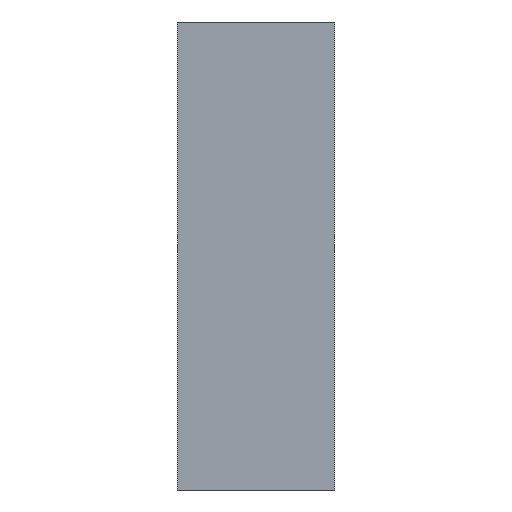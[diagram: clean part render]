
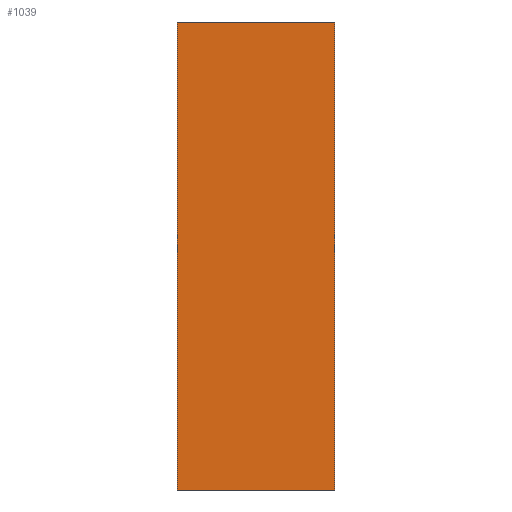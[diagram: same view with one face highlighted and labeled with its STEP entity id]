
A CAD part, left-side view. The second image highlights one B-rep face of the part: STEP entity #1039.
In plain terms, the highlighted planar face has unit normal (-1, 0, 0).
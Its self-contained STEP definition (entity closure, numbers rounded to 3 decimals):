
#326=DIRECTION('',(0.,-1.,0.));
#327=VECTOR('',#326,16.786);
#328=CARTESIAN_POINT('',(-25.,-49.214,50.));
#329=LINE('',#328,#327);
#334=DIRECTION('',(0.,0.,-1.));
#335=VECTOR('',#334,50.);
#336=CARTESIAN_POINT('',(-25.,-66.,50.));
#337=LINE('',#336,#335);
#349=DIRECTION('',(0.,0.,-1.));
#350=VECTOR('',#349,50.);
#351=CARTESIAN_POINT('',(-25.,-49.214,50.));
#352=LINE('',#351,#350);
#510=DIRECTION('',(0.,-1.,0.));
#511=VECTOR('',#510,16.786);
#512=CARTESIAN_POINT('',(-25.,-49.214,0.));
#513=LINE('',#512,#511);
#945=CARTESIAN_POINT('',(-25.,-49.214,50.));
#946=CARTESIAN_POINT('',(-25.,-66.,50.));
#947=VERTEX_POINT('',#945);
#948=VERTEX_POINT('',#946);
#949=CARTESIAN_POINT('',(-25.,-66.,0.));
#950=VERTEX_POINT('',#949);
#951=CARTESIAN_POINT('',(-25.,-49.214,0.));
#952=VERTEX_POINT('',#951);
#1024=CARTESIAN_POINT('',(-25.,-66.,0.));
#1025=DIRECTION('',(1.,0.,0.));
#1026=DIRECTION('',(0.,0.,1.));
#1027=AXIS2_PLACEMENT_3D('',#1024,#1025,#1026);
#1028=PLANE('',#1027);
#1030=ORIENTED_EDGE('',*,*,#1029,.T.);
#1032=ORIENTED_EDGE('',*,*,#1031,.T.);
#1034=ORIENTED_EDGE('',*,*,#1033,.F.);
#1036=ORIENTED_EDGE('',*,*,#1035,.F.);
#1037=EDGE_LOOP('',(#1030,#1032,#1034,#1036));
#1038=FACE_OUTER_BOUND('',#1037,.F.);
#1029=EDGE_CURVE('',#947,#948,#329,.T.);
#1031=EDGE_CURVE('',#948,#950,#337,.T.);
#1033=EDGE_CURVE('',#952,#950,#513,.T.);
#1035=EDGE_CURVE('',#947,#952,#352,.T.);
#1039=ADVANCED_FACE('',(#1038),#1028,.F.);
